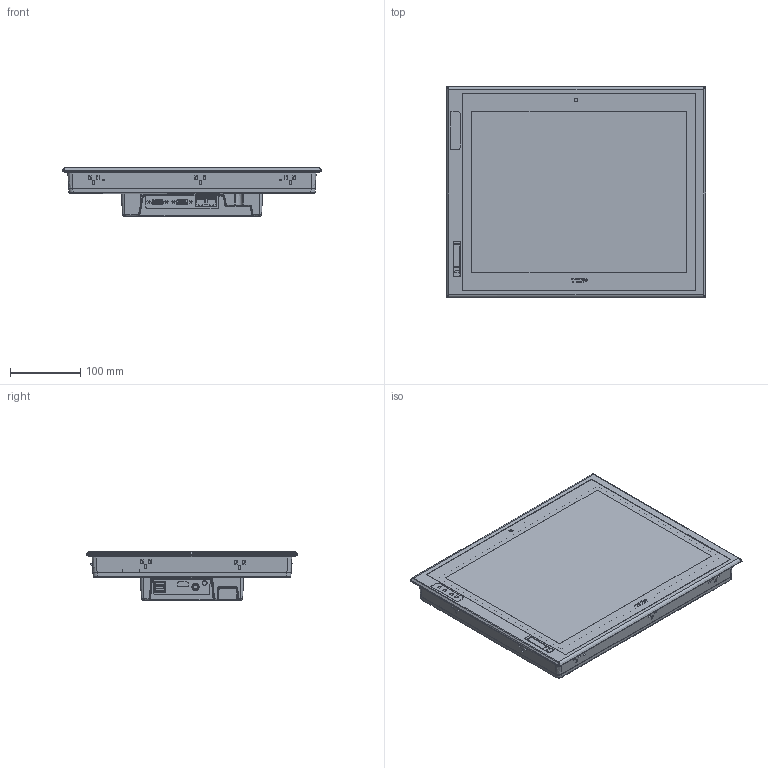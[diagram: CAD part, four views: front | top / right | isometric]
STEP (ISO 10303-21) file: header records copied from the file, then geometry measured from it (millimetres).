
FILE_DESCRIPTION((''),'2;1');
FILE_NAME('TOPRD1520X0_TOPRP20D0_ASM','2015-02-09T',('bckim'),(''),'PRO/ENGINEER BY PARAMETRIC TECHNOLOGY CORPORATION, 2013410','PRO/ENGINEER BY PARAMETRIC TECHNOLOGY CORPORATION, 2013410','');
FILE_SCHEMA(('CONFIG_CONTROL_DESIGN'));
Products named in the file (3): 00_DP15; 00_PROCESS; TOPRD1520X0_TOPRP20D0_ASM
Assembly tree (2 placements, depth 2):
  TOPRD1520X0_TOPRP20D0_ASM
    00_DP15
    00_PROCESS
Bounding box: 370 x 301 x 69 mm (x, y, z)
Volume: 4138068 mm3; surface area: 585321.7 mm2
Topology: 2 solids, 22 shells, 3742 faces, 9656 edges, 6050 vertices
Faces by surface type: bspline 3742
Entity records: 249367 total; most frequent: CARTESIAN_POINT 163648, ORIENTED_EDGE 19180, EDGE_CURVE 9590, DIRECTION 9553, VECTOR 6189, LINE 6189, VERTEX_POINT 6048, EDGE_LOOP 3960
